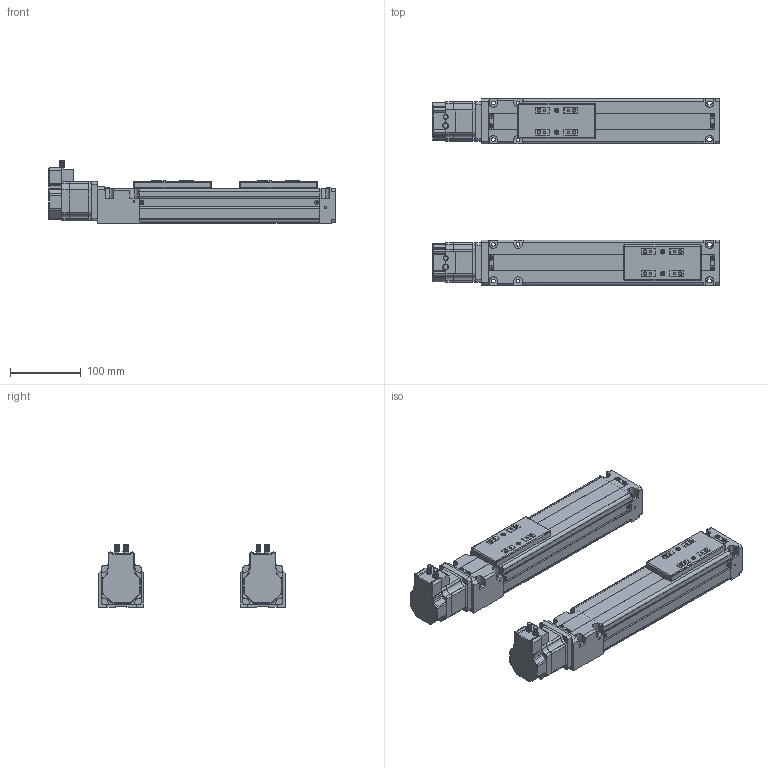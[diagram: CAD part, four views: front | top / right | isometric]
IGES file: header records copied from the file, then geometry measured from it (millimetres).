
Start section: IMSI TurboCAD v14.0
Global section: author: NULL; organization: NULL; date: 20151219.112103; units: millimetre
Bounding box: 406 x 264 x 87.99 mm (x, y, z)
Surface area: 477635.4 mm2 (no closed solid volume)
Topology: 0 solids, 0 shells, 2574 faces, 14274 edges, 14246 vertices
Faces by surface type: extrusion 1956, revolution 548, bspline 70
